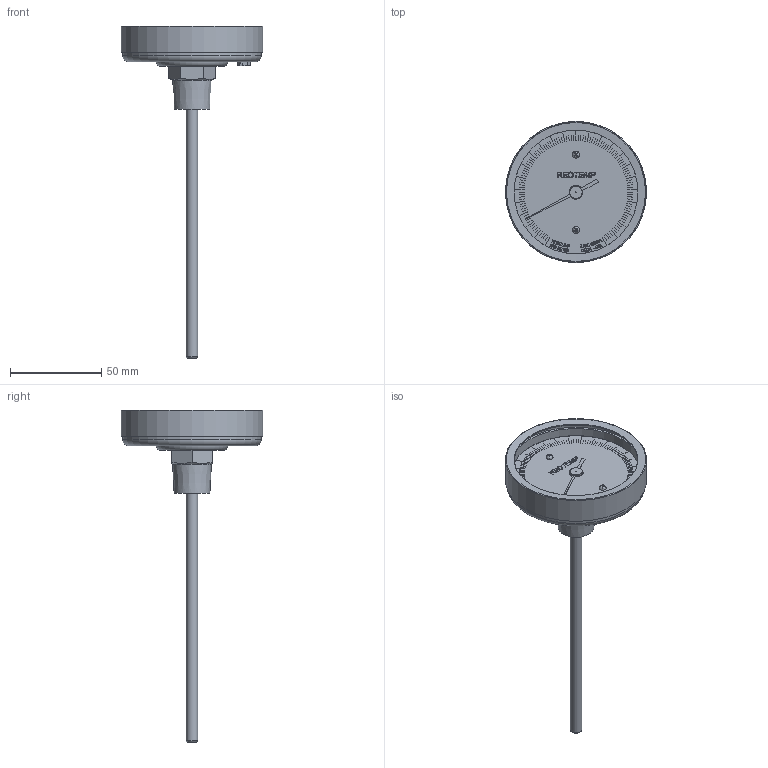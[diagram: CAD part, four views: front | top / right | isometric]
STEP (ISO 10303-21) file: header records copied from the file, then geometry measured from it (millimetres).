
FILE_DESCRIPTION(/* description */ (''),/* implementation_level */ '2;1');
FILE_NAME(/* name */ 'P:\3D Drawings\AA\AA-half-NPT\AA-half-NPT-STP\AA-half-NPT-STP.stp',/* time_stamp */ '2015-11-09T10:17:39-08:00',/* author */ ('charles'),/* organization */ (''),/* preprocessor_version */ 'ST-DEVELOPER v15.2',/* originating_system */ 'Autodesk Inventor 2014',/* authorisation */ '');
FILE_SCHEMA (('AUTOMOTIVE_DESIGN { 1 0 10303 214 3 1 1 }'));
Length unit declared in the file: inch
Products named in the file (1): AA-half-NPT
Bounding box: 77.47 x 77.47 x 182.13 mm (x, y, z)
Volume: 44875.8 mm3; surface area: 43855.9 mm2
Topology: 32 solids, 32 shells, 1653 faces, 4721 edges, 3146 vertices
Faces by surface type: plane 1239, bspline 383, cylinder 19, torus 8, cone 4
Full cylindrical faces by diameter (mm): 0.311 x1, 0.778 x1, 2.286 x4, 6.35 x1, 6.714 x1, 6.934 x2, 67.855 x1, 70.612 x2, 73.406 x1, 75.946 x1, 76.2 x1, 77.47 x1
Entity records: 59382 total; most frequent: CARTESIAN_POINT 16606, ORIENTED_EDGE 9374, DIRECTION 6491, EDGE_CURVE 4687, LINE 3835, VECTOR 3835, VERTEX_POINT 3141, EDGE_LOOP 2114
